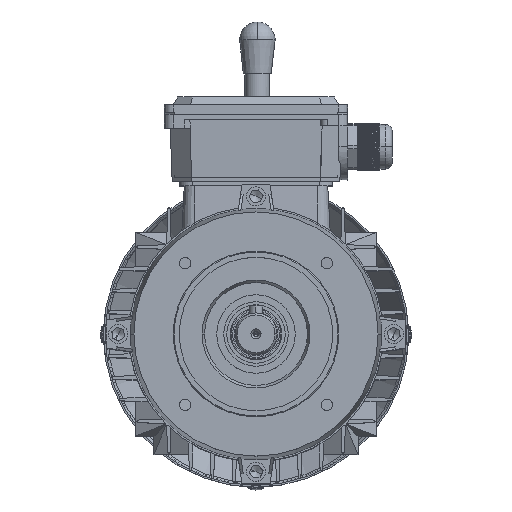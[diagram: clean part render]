
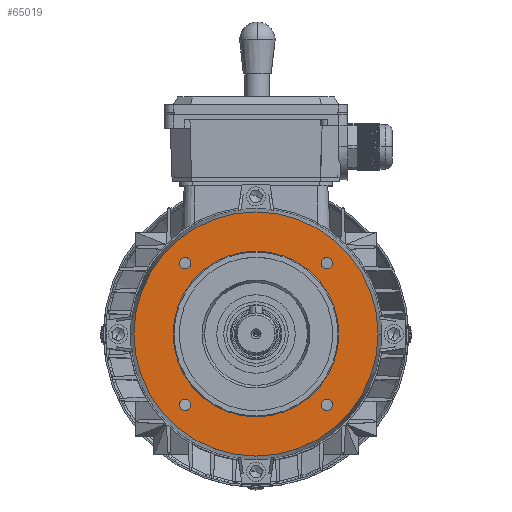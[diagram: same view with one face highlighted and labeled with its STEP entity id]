
A CAD part, top view. The second image highlights one B-rep face of the part: STEP entity #65019.
In plain terms, the highlighted planar face has unit normal (0, 0, 1).
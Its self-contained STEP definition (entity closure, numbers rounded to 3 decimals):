
#132 = EDGE_LOOP ( 'NONE', ( #137573, #122235 ) ) ;
#1880 = ORIENTED_EDGE ( 'NONE', *, *, #31647, .F. ) ;
#2729 = CARTESIAN_POINT ( 'NONE',  ( -66.785, -36.395, 122. ) ) ;
#3861 = AXIS2_PLACEMENT_3D ( 'NONE', #33867, #109564, #56039 ) ;
#4318 = PLANE ( 'NONE',  #20875 ) ;
#5499 = DIRECTION ( 'NONE',  ( 0., 0., -1. ) ) ;
#8448 = EDGE_CURVE ( 'NONE', #40092, #113079, #111659, .T. ) ;
#9409 = DIRECTION ( 'NONE',  ( -1., 0., 0. ) ) ;
#9733 = EDGE_CURVE ( 'NONE', #66207, #37408, #92536, .T. ) ;
#10080 = CARTESIAN_POINT ( 'NONE',  ( 14.532, 44.923, 122. ) ) ;
#10193 = EDGE_LOOP ( 'NONE', ( #1880, #78154 ) ) ;
#11978 = VERTEX_POINT ( 'NONE', #123907 ) ;
#12931 = DIRECTION ( 'NONE',  ( 0., 0., 1. ) ) ;
#15472 = ORIENTED_EDGE ( 'NONE', *, *, #21013, .F. ) ;
#16652 = CARTESIAN_POINT ( 'NONE',  ( -29.45, 4.264, 122. ) ) ;
#19814 = CARTESIAN_POINT ( 'NONE',  ( -29.45, 4.264, 122. ) ) ;
#20875 = AXIS2_PLACEMENT_3D ( 'NONE', #131490, #36270, #68191 ) ;
#21013 = EDGE_CURVE ( 'NONE', #84400, #28831, #136852, .T. ) ;
#24424 = VERTEX_POINT ( 'NONE', #109043 ) ;
#25675 = CARTESIAN_POINT ( 'NONE',  ( -29.45, 4.264, 122. ) ) ;
#26404 = DIRECTION ( 'NONE',  ( -1., 0., 0. ) ) ;
#28156 = CIRCLE ( 'NONE', #125747, 3.324 ) ;
#28831 = VERTEX_POINT ( 'NONE', #40251 ) ;
#29165 = EDGE_CURVE ( 'NONE', #24424, #35140, #100209, .T. ) ;
#29251 = VERTEX_POINT ( 'NONE', #83736 ) ;
#31606 = EDGE_LOOP ( 'NONE', ( #114130, #93539 ) ) ;
#31647 = EDGE_CURVE ( 'NONE', #51475, #11978, #71481, .T. ) ;
#33569 = DIRECTION ( 'NONE',  ( 0., 1., 0. ) ) ;
#33867 = CARTESIAN_POINT ( 'NONE',  ( -70.109, 44.923, 122. ) ) ;
#34908 = FACE_BOUND ( 'NONE', #31606, .T. ) ;
#35140 = VERTEX_POINT ( 'NONE', #2729 ) ;
#36270 = DIRECTION ( 'NONE',  ( 0., 0., -1. ) ) ;
#36655 = DIRECTION ( 'NONE',  ( 1., 0., 0. ) ) ;
#36910 = AXIS2_PLACEMENT_3D ( 'NONE', #59936, #70321, #37053 ) ;
#37053 = DIRECTION ( 'NONE',  ( 0., 1., 0. ) ) ;
#37408 = VERTEX_POINT ( 'NONE', #131153 ) ;
#40092 = VERTEX_POINT ( 'NONE', #107947 ) ;
#40251 = CARTESIAN_POINT ( 'NONE',  ( 14.532, -36.395, 122. ) ) ;
#42886 = DIRECTION ( 'NONE',  ( 1., 0., 0. ) ) ;
#45091 = EDGE_LOOP ( 'NONE', ( #77381, #132108 ) ) ;
#46660 = FACE_BOUND ( 'NONE', #100828, .T. ) ;
#49067 = EDGE_CURVE ( 'NONE', #29251, #60316, #131410, .T. ) ;
#50670 = DIRECTION ( 'NONE',  ( 0., 0., -1. ) ) ;
#51475 = VERTEX_POINT ( 'NONE', #10080 ) ;
#53869 = AXIS2_PLACEMENT_3D ( 'NONE', #19814, #62194, #9409 ) ;
#55231 = DIRECTION ( 'NONE',  ( 0., -1., 0. ) ) ;
#56039 = DIRECTION ( 'NONE',  ( 0., -1., 0. ) ) ;
#56822 = ORIENTED_EDGE ( 'NONE', *, *, #8448, .T. ) ;
#59544 = CARTESIAN_POINT ( 'NONE',  ( -70.109, -36.395, 122. ) ) ;
#59721 = DIRECTION ( 'NONE',  ( 0., 0., -1. ) ) ;
#59936 = CARTESIAN_POINT ( 'NONE',  ( 11.208, -36.395, 122. ) ) ;
#60191 = EDGE_CURVE ( 'NONE', #60316, #29251, #81434, .T. ) ;
#60316 = VERTEX_POINT ( 'NONE', #81137 ) ;
#62113 = CIRCLE ( 'NONE', #102010, 3.323 ) ;
#62194 = DIRECTION ( 'NONE',  ( 0., 0., -1. ) ) ;
#65019 = ADVANCED_FACE ( 'NONE', ( #87610, #46660, #66810, #109927, #34908, #122307 ), #4318, .F. ) ;
#65399 = EDGE_CURVE ( 'NONE', #37408, #66207, #131959, .T. ) ;
#66207 = VERTEX_POINT ( 'NONE', #68358 ) ;
#66545 = EDGE_CURVE ( 'NONE', #28831, #84400, #28156, .T. ) ;
#66810 = FACE_BOUND ( 'NONE', #10193, .T. ) ;
#68005 = DIRECTION ( 'NONE',  ( -1., 0., 0. ) ) ;
#68191 = DIRECTION ( 'NONE',  ( 0., -1., 0. ) ) ;
#68358 = CARTESIAN_POINT ( 'NONE',  ( -73.432, 44.923, 122. ) ) ;
#70321 = DIRECTION ( 'NONE',  ( 0., 0., 1. ) ) ;
#71481 = CIRCLE ( 'NONE', #115795, 3.324 ) ;
#72212 = DIRECTION ( 'NONE',  ( -1., 0., 0. ) ) ;
#75544 = DIRECTION ( 'NONE',  ( 0., 0., 1. ) ) ;
#76570 = DIRECTION ( 'NONE',  ( 0., 0., 1. ) ) ;
#76967 = DIRECTION ( 'NONE',  ( 0., 0., 1. ) ) ;
#77381 = ORIENTED_EDGE ( 'NONE', *, *, #49067, .F. ) ;
#77626 = DIRECTION ( 'NONE',  ( -1., 0., 0. ) ) ;
#78009 = AXIS2_PLACEMENT_3D ( 'NONE', #59544, #101870, #36655 ) ;
#78154 = ORIENTED_EDGE ( 'NONE', *, *, #115369, .F. ) ;
#81137 = CARTESIAN_POINT ( 'NONE',  ( 40.55, 4.264, 122. ) ) ;
#81434 = CIRCLE ( 'NONE', #90219, 70. ) ;
#83736 = CARTESIAN_POINT ( 'NONE',  ( -99.45, 4.264, 122. ) ) ;
#84308 = ORIENTED_EDGE ( 'NONE', *, *, #66545, .F. ) ;
#84400 = VERTEX_POINT ( 'NONE', #130130 ) ;
#87610 = FACE_OUTER_BOUND ( 'NONE', #45091, .T. ) ;
#89555 = DIRECTION ( 'NONE',  ( -1., 0., 0. ) ) ;
#90219 = AXIS2_PLACEMENT_3D ( 'NONE', #25675, #5499, #68005 ) ;
#92536 = CIRCLE ( 'NONE', #3861, 3.324 ) ;
#93539 = ORIENTED_EDGE ( 'NONE', *, *, #29165, .F. ) ;
#95012 = AXIS2_PLACEMENT_3D ( 'NONE', #120008, #76967, #77626 ) ;
#96374 = CARTESIAN_POINT ( 'NONE',  ( 18.05, 4.264, 122. ) ) ;
#98740 = CARTESIAN_POINT ( 'NONE',  ( 11.208, -36.395, 122. ) ) ;
#100209 = CIRCLE ( 'NONE', #78009, 3.323 ) ;
#100828 = EDGE_LOOP ( 'NONE', ( #84308, #15472 ) ) ;
#101870 = DIRECTION ( 'NONE',  ( 0., 0., 1. ) ) ;
#102010 = AXIS2_PLACEMENT_3D ( 'NONE', #118567, #75544, #42886 ) ;
#102095 = CARTESIAN_POINT ( 'NONE',  ( 11.208, 44.923, 122. ) ) ;
#102997 = AXIS2_PLACEMENT_3D ( 'NONE', #108091, #12931, #55231 ) ;
#103525 = CIRCLE ( 'NONE', #123450, 47.5 ) ;
#107947 = CARTESIAN_POINT ( 'NONE',  ( -76.95, 4.264, 122. ) ) ;
#108091 = CARTESIAN_POINT ( 'NONE',  ( -70.109, 44.923, 122. ) ) ;
#109043 = CARTESIAN_POINT ( 'NONE',  ( -73.432, -36.395, 122. ) ) ;
#109564 = DIRECTION ( 'NONE',  ( 0., 0., 1. ) ) ;
#109927 = FACE_BOUND ( 'NONE', #132, .T. ) ;
#111659 = CIRCLE ( 'NONE', #53869, 47.5 ) ;
#113079 = VERTEX_POINT ( 'NONE', #96374 ) ;
#113890 = CARTESIAN_POINT ( 'NONE',  ( -29.45, 4.264, 122. ) ) ;
#114130 = ORIENTED_EDGE ( 'NONE', *, *, #124110, .F. ) ;
#115369 = EDGE_CURVE ( 'NONE', #11978, #51475, #123810, .T. ) ;
#115795 = AXIS2_PLACEMENT_3D ( 'NONE', #102095, #123616, #89555 ) ;
#117922 = AXIS2_PLACEMENT_3D ( 'NONE', #113890, #50670, #72212 ) ;
#118567 = CARTESIAN_POINT ( 'NONE',  ( -70.109, -36.395, 122. ) ) ;
#120008 = CARTESIAN_POINT ( 'NONE',  ( 11.208, 44.923, 122. ) ) ;
#121656 = EDGE_CURVE ( 'NONE', #113079, #40092, #103525, .T. ) ;
#122235 = ORIENTED_EDGE ( 'NONE', *, *, #9733, .F. ) ;
#122307 = FACE_BOUND ( 'NONE', #124978, .T. ) ;
#123450 = AXIS2_PLACEMENT_3D ( 'NONE', #16652, #59721, #26404 ) ;
#123616 = DIRECTION ( 'NONE',  ( 0., 0., 1. ) ) ;
#123810 = CIRCLE ( 'NONE', #95012, 3.324 ) ;
#123907 = CARTESIAN_POINT ( 'NONE',  ( 7.885, 44.923, 122. ) ) ;
#124110 = EDGE_CURVE ( 'NONE', #35140, #24424, #62113, .T. ) ;
#124978 = EDGE_LOOP ( 'NONE', ( #56822, #136737 ) ) ;
#125747 = AXIS2_PLACEMENT_3D ( 'NONE', #98740, #76570, #33569 ) ;
#130130 = CARTESIAN_POINT ( 'NONE',  ( 7.885, -36.395, 122. ) ) ;
#131153 = CARTESIAN_POINT ( 'NONE',  ( -66.785, 44.923, 122. ) ) ;
#131410 = CIRCLE ( 'NONE', #117922, 70. ) ;
#131490 = CARTESIAN_POINT ( 'NONE',  ( -76.95, 4.264, 122. ) ) ;
#131959 = CIRCLE ( 'NONE', #102997, 3.324 ) ;
#132108 = ORIENTED_EDGE ( 'NONE', *, *, #60191, .F. ) ;
#136737 = ORIENTED_EDGE ( 'NONE', *, *, #121656, .T. ) ;
#136852 = CIRCLE ( 'NONE', #36910, 3.324 ) ;
#137573 = ORIENTED_EDGE ( 'NONE', *, *, #65399, .F. ) ;
